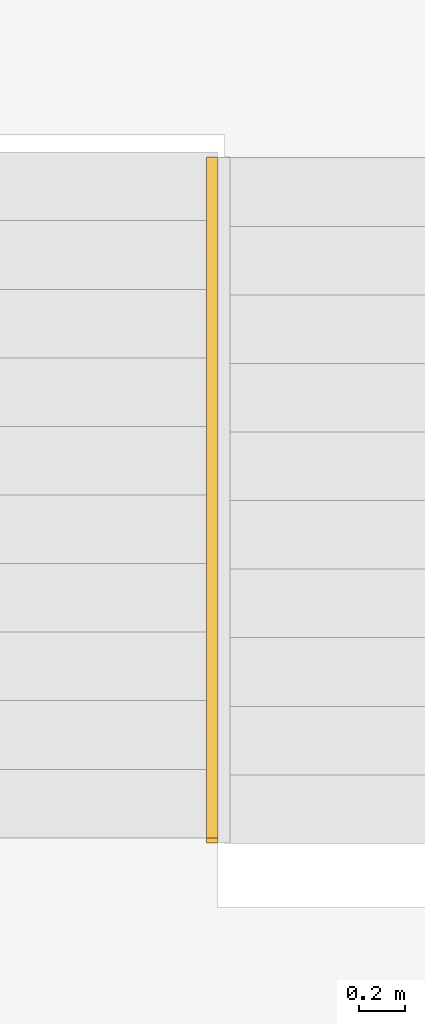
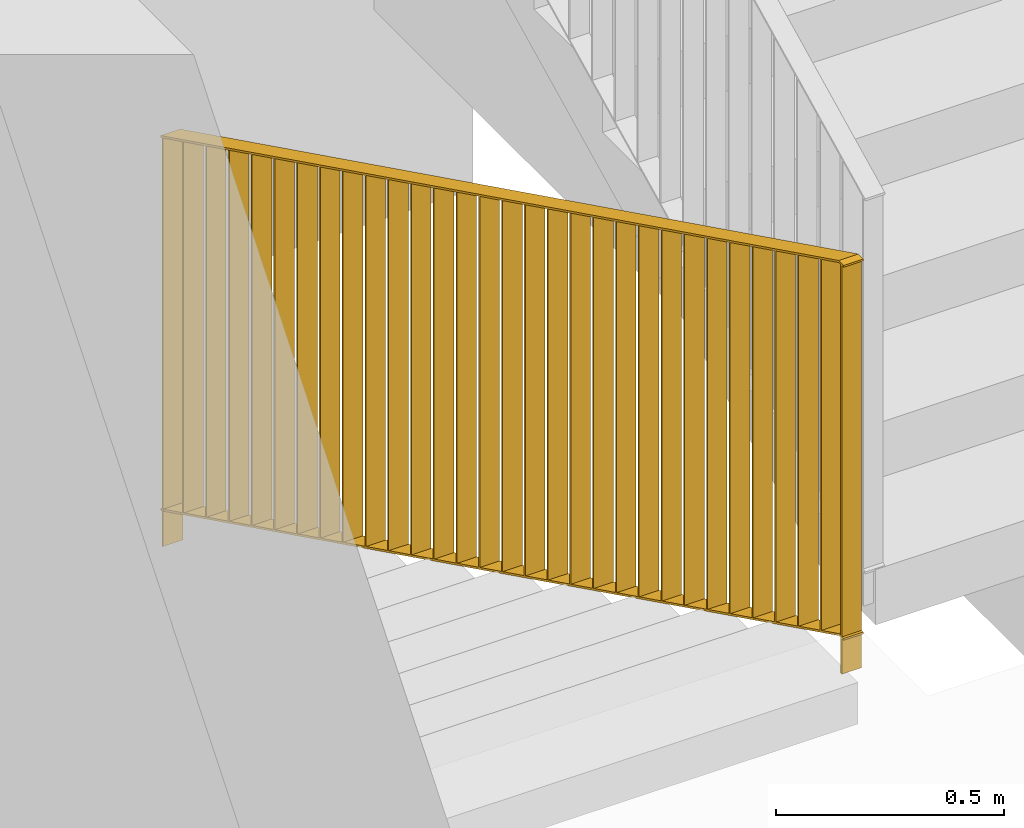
# One storey, part 24 of 46: 1 railing, 1 element without a shape of its own.
"""IFC2X3 building model written with IfcOpenShell, lengths in millimetres."""

from ifc_helpers import new_model, entity, si_unit, converted_unit, derived_unit, direction, frame, origin, place, context, subcontext, project, spatial, faceted_brep, material, element, aggregate, save


model = new_model("IFC2X3")

# Units and contexts
model_context = context("Model", 3, precision=0.01, world=origin(), true_north=direction((6.12303176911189e-17, 1.0)))
body_context = subcontext(model_context, "Body", "Model", "MODEL_VIEW")
ifc_project = project(units=[si_unit("LENGTHUNIT", "METRE", prefix="MILLI"), si_unit("AREAUNIT", "SQUARE_METRE"), si_unit("VOLUMEUNIT", "CUBIC_METRE"), converted_unit("PLANEANGLEUNIT", "DEGREE", entity("IfcRatioMeasure", 0.0174532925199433), si_unit("PLANEANGLEUNIT", "RADIAN"), dimensions=[0, 0, 0, 0, 0, 0, 0]), si_unit("MASSUNIT", "GRAM", prefix="KILO"), derived_unit("MASSDENSITYUNIT", [(si_unit("MASSUNIT", "GRAM", prefix="KILO"), 1), (si_unit("LENGTHUNIT", "METRE"), -3)]), si_unit("TIMEUNIT", "SECOND"), si_unit("FREQUENCYUNIT", "HERTZ"), si_unit("THERMODYNAMICTEMPERATUREUNIT", "DEGREE_CELSIUS"), derived_unit("THERMALTRANSMITTANCEUNIT", [(si_unit("MASSUNIT", "GRAM", prefix="KILO"), 1), (si_unit("THERMODYNAMICTEMPERATUREUNIT", "KELVIN"), -1), (si_unit("TIMEUNIT", "SECOND"), -3)]), derived_unit("VOLUMETRICFLOWRATEUNIT", [(si_unit("LENGTHUNIT", "METRE"), 3), (si_unit("TIMEUNIT", "SECOND"), -1)]), si_unit("ELECTRICCURRENTUNIT", "AMPERE"), si_unit("ELECTRICVOLTAGEUNIT", "VOLT"), si_unit("POWERUNIT", "WATT"), si_unit("FORCEUNIT", "NEWTON", prefix="KILO"), si_unit("ILLUMINANCEUNIT", "LUX"), si_unit("LUMINOUSFLUXUNIT", "LUMEN"), si_unit("LUMINOUSINTENSITYUNIT", "CANDELA"), derived_unit("USERDEFINED", [(si_unit("MASSUNIT", "GRAM", prefix="KILO"), -1), (si_unit("LENGTHUNIT", "METRE"), -2), (si_unit("TIMEUNIT", "SECOND"), 3), (si_unit("LUMINOUSFLUXUNIT", "LUMEN"), 1)]), derived_unit("LINEARVELOCITYUNIT", [(si_unit("LENGTHUNIT", "METRE"), 1), (si_unit("TIMEUNIT", "SECOND"), -1)]), si_unit("PRESSUREUNIT", "PASCAL"), derived_unit("USERDEFINED", [(si_unit("LENGTHUNIT", "METRE"), -2), (si_unit("MASSUNIT", "GRAM", prefix="KILO"), 1), (si_unit("TIMEUNIT", "SECOND"), -2)]), derived_unit("LINEARFORCEUNIT", [(si_unit("MASSUNIT", "GRAM", prefix="KILO"), 1), (si_unit("LENGTHUNIT", "METRE"), 1), (si_unit("TIMEUNIT", "SECOND"), -2), (si_unit("LENGTHUNIT", "METRE"), -1)]), derived_unit("PLANARFORCEUNIT", [(si_unit("MASSUNIT", "GRAM", prefix="KILO"), 1), (si_unit("LENGTHUNIT", "METRE"), 1), (si_unit("TIMEUNIT", "SECOND"), -2), (si_unit("LENGTHUNIT", "METRE"), -2)])], contexts=[model_context])

# Site, building, storey
site_placement = place(None, origin())
site = spatial("IfcSite", under=ifc_project, at=site_placement, Name="Default", CompositionType="ELEMENT")
building_placement = place(site_placement, origin())
building = spatial("IfcBuilding", under=site, at=building_placement, Name="SMA ARH", CompositionType="ELEMENT")
storey_placement = place(building_placement, origin())
storey = spatial("IfcBuildingStorey", under=building, at=storey_placement, Name="1 Korrus", CompositionType="ELEMENT", Elevation=0.0)

# Stair, railing
stair_placement = place(storey_placement, origin())
stair = element("IfcStair", 1, at=stair_placement, inside=storey, Name="Cast-In-Place Stair:Stair", ObjectType="Cast-In-Place Stair:Cast-In-Place Stair", ShapeType="STRAIGHT_RUN_STAIR")
ifc_material = material(Name="Metal - Stainless Steel,Polished")
railing_placement = place(stair_placement, frame((32155.0, 1650.0, 42.7488911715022)))
railing = element("IfcRailing", 2, at=railing_placement, material=ifc_material, Name="Railing:1000mm_sisearh railing offsetiga", ObjectType="Railing:1000mm_sisearh railing offsetiga", PredefinedType="NOTDEFINED", context=body_context, shape_type="Brep", body=[
    faceted_brep([(0.0, 2902.50000000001, 144.45454545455), (0.0, 2897.50000000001, 146.924242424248), (0.0, 2897.50000000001, 1141.34755854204), (0.0, 2902.50000000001, 1138.87786157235), (50.0, 2902.50000000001, 144.454545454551), (50.0, 2902.50000000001, 1138.87786157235), (50.0, 2897.50000000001, 1141.34755854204), (50.0, 2897.50000000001, 146.924242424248)], [[[0, 1, 2, 3]], [[4, 5, 6, 7]], [[1, 0, 4, 7]], [[2, 1, 7, 6]], [[3, 2, 6, 5]], [[0, 3, 5, 4]]]),
    faceted_brep([(0.0, 2802.50000000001, 193.84848484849), (0.0, 2797.50000000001, 196.318181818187), (0.0, 2797.50000000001, 1190.74149793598), (0.0, 2802.50000000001, 1188.27180096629), (50.0, 2802.50000000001, 193.84848484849), (50.0, 2802.50000000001, 1188.27180096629), (50.0, 2797.50000000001, 1190.74149793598), (50.0, 2797.50000000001, 196.318181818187)], [[[0, 1, 2, 3]], [[4, 5, 6, 7]], [[1, 0, 4, 7]], [[2, 1, 7, 6]], [[3, 2, 6, 5]], [[0, 3, 5, 4]]]),
    faceted_brep([(0.0, 2702.50000000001, 243.242424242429), (0.0, 2697.50000000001, 245.712121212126), (0.0, 2697.50000000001, 1240.13543732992), (0.0, 2702.50000000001, 1237.66574036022), (50.0, 2702.50000000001, 243.24242424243), (50.0, 2702.50000000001, 1237.66574036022), (50.0, 2697.50000000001, 1240.13543732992), (50.0, 2697.50000000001, 245.712121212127)], [[[0, 1, 2, 3]], [[4, 5, 6, 7]], [[1, 0, 4, 7]], [[2, 1, 7, 6]], [[3, 2, 6, 5]], [[0, 3, 5, 4]]]),
    faceted_brep([(0.0, 2602.50000000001, 292.636363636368), (0.0, 2597.50000000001, 295.106060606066), (0.0, 2597.50000000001, 1289.52937672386), (0.0, 2602.50000000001, 1287.05967975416), (50.0, 2602.50000000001, 292.636363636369), (50.0, 2602.50000000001, 1287.05967975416), (50.0, 2597.50000000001, 1289.52937672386), (50.0, 2597.50000000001, 295.106060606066)], [[[0, 1, 2, 3]], [[4, 5, 6, 7]], [[1, 0, 4, 7]], [[2, 1, 7, 6]], [[3, 2, 6, 5]], [[0, 3, 5, 4]]]),
    faceted_brep([(0.0, 2502.50000000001, 342.030303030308), (0.0, 2497.50000000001, 344.500000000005), (0.0, 2497.50000000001, 1338.9233161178), (0.0, 2502.50000000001, 1336.4536191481), (50.0, 2502.50000000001, 342.030303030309), (50.0, 2502.50000000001, 1336.4536191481), (50.0, 2497.50000000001, 1338.9233161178), (50.0, 2497.50000000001, 344.500000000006)], [[[0, 1, 2, 3]], [[4, 5, 6, 7]], [[1, 0, 4, 7]], [[2, 1, 7, 6]], [[3, 2, 6, 5]], [[0, 3, 5, 4]]]),
    faceted_brep([(0.0, 2402.50000000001, 391.424242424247), (0.0, 2397.50000000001, 393.893939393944), (0.0, 2397.50000000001, 1388.31725551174), (0.0, 2402.50000000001, 1385.84755854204), (50.0, 2402.50000000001, 391.424242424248), (50.0, 2402.50000000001, 1385.84755854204), (50.0, 2397.50000000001, 1388.31725551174), (50.0, 2397.50000000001, 393.893939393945)], [[[0, 1, 2, 3]], [[4, 5, 6, 7]], [[1, 0, 4, 7]], [[2, 1, 7, 6]], [[3, 2, 6, 5]], [[0, 3, 5, 4]]]),
    faceted_brep([(0.0, 2302.50000000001, 440.818181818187), (0.0, 2297.50000000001, 443.287878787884), (0.0, 2297.50000000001, 1437.71119490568), (0.0, 2302.50000000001, 1435.24149793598), (50.0, 2302.50000000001, 440.818181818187), (50.0, 2302.50000000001, 1435.24149793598), (50.0, 2297.50000000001, 1437.71119490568), (50.0, 2297.50000000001, 443.287878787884)], [[[0, 1, 2, 3]], [[4, 5, 6, 7]], [[1, 0, 4, 7]], [[2, 1, 7, 6]], [[3, 2, 6, 5]], [[0, 3, 5, 4]]]),
    faceted_brep([(0.0, 2202.50000000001, 490.212121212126), (0.0, 2197.50000000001, 492.681818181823), (0.0, 2197.50000000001, 1487.10513429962), (0.0, 2202.50000000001, 1484.63543732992), (50.0, 2202.50000000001, 490.212121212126), (50.0, 2202.50000000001, 1484.63543732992), (50.0, 2197.50000000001, 1487.10513429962), (50.0, 2197.50000000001, 492.681818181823)], [[[0, 1, 2, 3]], [[4, 5, 6, 7]], [[1, 0, 4, 7]], [[2, 1, 7, 6]], [[3, 2, 6, 5]], [[0, 3, 5, 4]]]),
    faceted_brep([(0.0, 2102.50000000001, 539.606060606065), (0.0, 2097.50000000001, 542.075757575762), (0.0, 2097.50000000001, 1536.49907369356), (0.0, 2102.50000000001, 1534.02937672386), (50.0, 2102.50000000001, 539.606060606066), (50.0, 2102.50000000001, 1534.02937672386), (50.0, 2097.50000000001, 1536.49907369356), (50.0, 2097.50000000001, 542.075757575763)], [[[0, 1, 2, 3]], [[4, 5, 6, 7]], [[1, 0, 4, 7]], [[2, 1, 7, 6]], [[3, 2, 6, 5]], [[0, 3, 5, 4]]]),
    faceted_brep([(0.0, 2002.50000000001, 589.0), (0.0, 1997.50000000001, 591.469696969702), (0.0, 1997.50000000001, 1585.8930130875), (0.0, 2002.50000000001, 1583.4233161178), (50.0, 2002.50000000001, 589.0), (50.0, 2002.50000000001, 1583.4233161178), (50.0, 1997.50000000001, 1585.8930130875), (50.0, 1997.50000000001, 591.469696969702)], [[[0, 1, 2, 3]], [[4, 5, 6, 7]], [[1, 0, 4, 7]], [[2, 1, 7, 6]], [[3, 2, 6, 5]], [[0, 3, 5, 4]]]),
    faceted_brep([(0.0, 1902.50000000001, 638.393939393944), (0.0, 1897.50000000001, 640.863636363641), (0.0, 1897.50000000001, 1635.28695248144), (0.0, 1902.50000000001, 1632.81725551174), (50.0, 1902.50000000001, 638.393939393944), (50.0, 1902.50000000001, 1632.81725551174), (50.0, 1897.50000000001, 1635.28695248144), (50.0, 1897.50000000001, 640.863636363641)], [[[0, 1, 2, 3]], [[4, 5, 6, 7]], [[1, 0, 4, 7]], [[2, 1, 7, 6]], [[3, 2, 6, 5]], [[0, 3, 5, 4]]]),
    faceted_brep([(0.0, 1802.50000000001, 687.787878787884), (0.0, 1797.50000000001, 690.257575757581), (0.0, 1797.50000000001, 1684.68089187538), (0.0, 1802.50000000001, 1682.21119490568), (50.0, 1802.50000000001, 687.787878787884), (50.0, 1802.50000000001, 1682.21119490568), (50.0, 1797.50000000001, 1684.68089187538), (50.0, 1797.50000000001, 690.257575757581)], [[[0, 1, 2, 3]], [[4, 5, 6, 7]], [[1, 0, 4, 7]], [[2, 1, 7, 6]], [[3, 2, 6, 5]], [[0, 3, 5, 4]]]),
    faceted_brep([(0.0, 1702.50000000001, 737.181818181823), (0.0, 1697.50000000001, 739.65151515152), (0.0, 1697.50000000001, 1734.07483126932), (0.0, 1702.50000000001, 1731.60513429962), (50.0, 1702.50000000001, 737.181818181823), (50.0, 1702.50000000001, 1731.60513429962), (50.0, 1697.50000000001, 1734.07483126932), (50.0, 1697.50000000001, 739.65151515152)], [[[0, 1, 2, 3]], [[4, 5, 6, 7]], [[1, 0, 4, 7]], [[2, 1, 7, 6]], [[3, 2, 6, 5]], [[0, 3, 5, 4]]]),
    faceted_brep([(0.0, 1602.50000000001, 786.575757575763), (0.0, 1597.50000000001, 789.04545454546), (0.0, 1597.50000000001, 1783.46877066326), (0.0, 1602.50000000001, 1780.99907369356), (50.0, 1602.50000000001, 786.575757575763), (50.0, 1602.50000000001, 1780.99907369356), (50.0, 1597.50000000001, 1783.46877066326), (50.0, 1597.50000000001, 789.04545454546)], [[[0, 1, 2, 3]], [[4, 5, 6, 7]], [[1, 0, 4, 7]], [[2, 1, 7, 6]], [[3, 2, 6, 5]], [[0, 3, 5, 4]]]),
    faceted_brep([(0.0, 1502.50000000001, 835.969696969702), (0.0, 1497.50000000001, 838.439393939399), (0.0, 1497.50000000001, 1832.86271005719), (0.0, 1502.50000000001, 1830.3930130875), (50.0, 1502.50000000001, 835.969696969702), (50.0, 1502.50000000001, 1830.3930130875), (50.0, 1497.50000000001, 1832.86271005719), (50.0, 1497.50000000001, 838.439393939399)], [[[0, 1, 2, 3]], [[4, 5, 6, 7]], [[1, 0, 4, 7]], [[2, 1, 7, 6]], [[3, 2, 6, 5]], [[0, 3, 5, 4]]]),
    faceted_brep([(0.0, 1402.50000000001, 885.363636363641), (0.0, 1397.50000000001, 887.833333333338), (0.0, 1397.50000000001, 1882.25664945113), (0.0, 1402.50000000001, 1879.78695248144), (50.0, 1402.50000000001, 885.363636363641), (50.0, 1402.50000000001, 1879.78695248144), (50.0, 1397.50000000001, 1882.25664945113), (50.0, 1397.50000000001, 887.833333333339)], [[[0, 1, 2, 3]], [[4, 5, 6, 7]], [[1, 0, 4, 7]], [[2, 1, 7, 6]], [[3, 2, 6, 5]], [[0, 3, 5, 4]]]),
    faceted_brep([(0.0, 1302.50000000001, 934.75757575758), (0.0, 1297.50000000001, 937.227272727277), (0.0, 1297.50000000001, 1931.65058884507), (0.0, 1302.50000000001, 1929.18089187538), (50.0, 1302.50000000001, 934.757575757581), (50.0, 1302.50000000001, 1929.18089187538), (50.0, 1297.50000000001, 1931.65058884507), (50.0, 1297.50000000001, 937.227272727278)], [[[0, 1, 2, 3]], [[4, 5, 6, 7]], [[1, 0, 4, 7]], [[2, 1, 7, 6]], [[3, 2, 6, 5]], [[0, 3, 5, 4]]]),
    faceted_brep([(0.0, 1202.50000000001, 984.15151515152), (0.0, 1197.50000000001, 986.621212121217), (0.0, 1197.50000000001, 1981.04452823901), (0.0, 1202.50000000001, 1978.57483126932), (50.0, 1202.50000000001, 984.15151515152), (50.0, 1202.50000000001, 1978.57483126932), (50.0, 1197.50000000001, 1981.04452823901), (50.0, 1197.50000000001, 986.621212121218)], [[[0, 1, 2, 3]], [[4, 5, 6, 7]], [[1, 0, 4, 7]], [[2, 1, 7, 6]], [[3, 2, 6, 5]], [[0, 3, 5, 4]]]),
    faceted_brep([(0.0, 1102.50000000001, 1033.54545454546), (0.0, 1097.50000000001, 1036.01515151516), (0.0, 1097.50000000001, 2030.43846763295), (0.0, 1102.50000000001, 2027.96877066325), (50.0, 1102.50000000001, 1033.54545454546), (50.0, 1102.50000000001, 2027.96877066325), (50.0, 1097.50000000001, 2030.43846763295), (50.0, 1097.50000000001, 1036.01515151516)], [[[0, 1, 2, 3]], [[4, 5, 6, 7]], [[1, 0, 4, 7]], [[2, 1, 7, 6]], [[3, 2, 6, 5]], [[0, 3, 5, 4]]]),
    faceted_brep([(0.0, 1002.50000000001, 1082.9393939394), (0.0, 997.500000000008, 1085.4090909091), (0.0, 997.500000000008, 2079.83240702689), (0.0, 1002.50000000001, 2077.36271005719), (50.0, 1002.50000000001, 1082.9393939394), (50.0, 1002.50000000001, 2077.36271005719), (50.0, 997.500000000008, 2079.83240702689), (50.0, 997.500000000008, 1085.4090909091)], [[[0, 1, 2, 3]], [[4, 5, 6, 7]], [[1, 0, 4, 7]], [[2, 1, 7, 6]], [[3, 2, 6, 5]], [[0, 3, 5, 4]]]),
    faceted_brep([(0.0, 902.500000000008, 1132.33333333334), (0.0, 897.500000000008, 1134.80303030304), (0.0, 897.500000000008, 2129.22634642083), (0.0, 902.500000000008, 2126.75664945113), (50.0, 902.500000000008, 1132.33333333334), (50.0, 902.500000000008, 2126.75664945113), (50.0, 897.500000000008, 2129.22634642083), (50.0, 897.500000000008, 1134.80303030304)], [[[0, 1, 2, 3]], [[4, 5, 6, 7]], [[1, 0, 4, 7]], [[2, 1, 7, 6]], [[3, 2, 6, 5]], [[0, 3, 5, 4]]]),
    faceted_brep([(0.0, 802.500000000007, 1181.72727272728), (0.0, 797.500000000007, 1184.19696969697), (0.0, 797.500000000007, 2178.62028581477), (0.0, 802.500000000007, 2176.15058884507), (50.0, 802.500000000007, 1181.72727272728), (50.0, 802.500000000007, 2176.15058884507), (50.0, 797.500000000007, 2178.62028581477), (50.0, 797.500000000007, 1184.19696969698)], [[[0, 1, 2, 3]], [[4, 5, 6, 7]], [[1, 0, 4, 7]], [[2, 1, 7, 6]], [[3, 2, 6, 5]], [[0, 3, 5, 4]]]),
    faceted_brep([(0.0, 702.500000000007, 1231.12121212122), (0.0, 697.500000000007, 1233.59090909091), (0.0, 697.500000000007, 2228.01422520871), (0.0, 702.500000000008, 2225.54452823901), (50.0, 702.500000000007, 1231.12121212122), (50.0, 702.500000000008, 2225.54452823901), (50.0, 697.500000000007, 2228.01422520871), (50.0, 697.500000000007, 1233.59090909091)], [[[0, 1, 2, 3]], [[4, 5, 6, 7]], [[1, 0, 4, 7]], [[2, 1, 7, 6]], [[3, 2, 6, 5]], [[0, 3, 5, 4]]]),
    faceted_brep([(0.0, 602.500000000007, 1280.51515151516), (0.0, 597.500000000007, 1282.98484848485), (0.0, 597.500000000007, 2277.40816460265), (0.0, 602.500000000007, 2274.93846763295), (50.0, 602.500000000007, 1280.51515151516), (50.0, 602.500000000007, 2274.93846763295), (50.0, 597.500000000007, 2277.40816460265), (50.0, 597.500000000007, 1282.98484848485)], [[[0, 1, 2, 3]], [[4, 5, 6, 7]], [[1, 0, 4, 7]], [[2, 1, 7, 6]], [[3, 2, 6, 5]], [[0, 3, 5, 4]]]),
    faceted_brep([(0.0, 502.500000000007, 1329.9090909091), (0.0, 497.500000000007, 1332.37878787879), (0.0, 497.500000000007, 2326.80210399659), (0.0, 502.500000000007, 2324.33240702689), (50.0, 502.500000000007, 1329.9090909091), (50.0, 502.500000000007, 2324.33240702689), (50.0, 497.500000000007, 2326.80210399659), (50.0, 497.500000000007, 1332.37878787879)], [[[0, 1, 2, 3]], [[4, 5, 6, 7]], [[1, 0, 4, 7]], [[2, 1, 7, 6]], [[3, 2, 6, 5]], [[0, 3, 5, 4]]]),
    faceted_brep([(0.0, 402.500000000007, 1379.30303030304), (0.0, 397.500000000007, 1381.77272727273), (0.0, 397.500000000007, 2376.19604339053), (0.0, 402.500000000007, 2373.72634642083), (50.0, 402.500000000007, 1379.30303030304), (50.0, 402.500000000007, 2373.72634642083), (50.0, 397.500000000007, 2376.19604339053), (50.0, 397.500000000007, 1381.77272727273)], [[[0, 1, 2, 3]], [[4, 5, 6, 7]], [[1, 0, 4, 7]], [[2, 1, 7, 6]], [[3, 2, 6, 5]], [[0, 3, 5, 4]]]),
    faceted_brep([(0.0, 302.500000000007, 1428.69696969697), (0.0, 297.500000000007, 1431.16666666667), (0.0, 297.500000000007, 2425.58998278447), (0.0, 302.500000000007, 2423.12028581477), (50.0, 302.500000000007, 1428.69696969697), (50.0, 302.500000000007, 2423.12028581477), (50.0, 297.500000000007, 2425.58998278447), (50.0, 297.500000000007, 1431.16666666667)], [[[0, 1, 2, 3]], [[4, 5, 6, 7]], [[1, 0, 4, 7]], [[2, 1, 7, 6]], [[3, 2, 6, 5]], [[0, 3, 5, 4]]]),
    faceted_brep([(0.0, 202.500000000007, 1478.09090909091), (0.0, 197.500000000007, 1480.56060606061), (0.0, 197.500000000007, 2474.98392217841), (0.0, 202.500000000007, 2472.51422520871), (50.0, 202.500000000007, 1478.09090909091), (50.0, 202.500000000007, 2472.51422520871), (50.0, 197.500000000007, 2474.98392217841), (50.0, 197.500000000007, 1480.56060606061)], [[[0, 1, 2, 3]], [[4, 5, 6, 7]], [[1, 0, 4, 7]], [[2, 1, 7, 6]], [[3, 2, 6, 5]], [[0, 3, 5, 4]]]),
    faceted_brep([(0.0, 102.500000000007, 1527.48484848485), (0.0, 97.5000000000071, 1529.95454545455), (0.0, 97.5000000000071, 2524.37786157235), (0.0, 102.500000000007, 2521.90816460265), (50.0, 102.500000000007, 1527.48484848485), (50.0, 102.500000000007, 2521.90816460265), (50.0, 97.5000000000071, 2524.37786157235), (50.0, 97.5000000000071, 1529.95454545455)], [[[0, 1, 2, 3]], [[4, 5, 6, 7]], [[1, 0, 4, 7]], [[2, 1, 7, 6]], [[3, 2, 6, 5]], [[0, 3, 5, 4]]]),
    faceted_brep([(0.0, 2992.50000000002, 0.0), (0.0, 2987.50000000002, 2.46969696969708), (0.0, 2987.50000000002, 1096.89301308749), (0.0, 2992.50000000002, 1094.4233161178), (50.0, 2992.50000000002, 0.0), (50.0, 2992.50000000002, 1094.4233161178), (50.0, 2987.50000000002, 1096.89301308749), (50.0, 2987.50000000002, 2.46969696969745)], [[[0, 1, 2, 3]], [[4, 5, 6, 7]], [[1, 0, 4, 7]], [[2, 1, 7, 6]], [[3, 2, 6, 5]], [[0, 3, 5, 4]]]),
    faceted_brep([(0.0, 12.5000000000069, 1467.2511088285), (0.0, 7.50000000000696, 1467.2511088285), (0.0, 7.50000000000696, 2562.2511088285), (0.0, 12.5000000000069, 2562.25110882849), (50.0, 12.5000000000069, 1467.2511088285), (50.0, 12.5000000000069, 2562.2511088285), (50.0, 7.50000000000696, 2562.2511088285), (50.0, 7.50000000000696, 1467.2511088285)], [[[0, 1, 2, 3]], [[4, 5, 6, 7]], [[1, 0, 4, 7]], [[2, 1, 7, 6]], [[3, 2, 6, 5]], [[0, 3, 5, 4]]]),
    faceted_brep([(0.440169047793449, 0.0, 1567.2511088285), (0.440169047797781, 0.0, 1562.2511088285), (50.4401690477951, 0.0, 1562.2511088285), (50.4401690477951, 0.0, 1567.2511088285), (0.440169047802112, 3000.0, 96.2954545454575), (50.4401690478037, 3000.0, 96.2954545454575), (50.4401690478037, 3000.0, 90.7187706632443), (0.440169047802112, 3000.0, 90.7187706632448), (0.440169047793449, 21.9916201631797, 1567.2511088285), (0.440169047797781, 20.8241006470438, 1562.2511088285), (50.4401690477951, 20.8241006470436, 1562.2511088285), (50.4401690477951, 21.9916201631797, 1567.2511088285)], [[[0, 1, 2, 3]], [[4, 5, 6, 7]], [[1, 0, 8, 9]], [[2, 1, 9, 10]], [[3, 2, 10, 11]], [[0, 3, 11, 8]], [[9, 8, 4, 7]], [[10, 9, 7, 6]], [[11, 10, 6, 5]], [[8, 11, 5, 4]]]),
    faceted_brep([(0.440169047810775, 3000.0, 1096.29545454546), (50.4401690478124, 3000.0, 1096.29545454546), (50.4401690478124, 3000.0, 1090.71877066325), (0.440169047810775, 3000.0, 1090.71877066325), (0.440169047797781, 21.9916201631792, 2567.2511088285), (50.4401690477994, 21.9916201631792, 2567.2511088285), (50.4401690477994, 20.8241006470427, 2562.2511088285), (0.440169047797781, 20.8241006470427, 2562.2511088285), (0.440169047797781, 0.0, 2567.2511088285), (0.440169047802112, 0.0, 2562.2511088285), (50.4401690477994, 0.0, 2562.2511088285), (50.4401690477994, 0.0, 2567.2511088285)], [[[0, 1, 2, 3]], [[1, 0, 4, 5]], [[2, 1, 5, 6]], [[3, 2, 6, 7]], [[0, 3, 7, 4]], [[8, 9, 10, 11]], [[5, 4, 8, 11]], [[6, 5, 11, 10]], [[7, 6, 10, 9]], [[4, 7, 9, 8]]]),
])
aggregate(stair, [railing])

save(model, "model.ifc")
